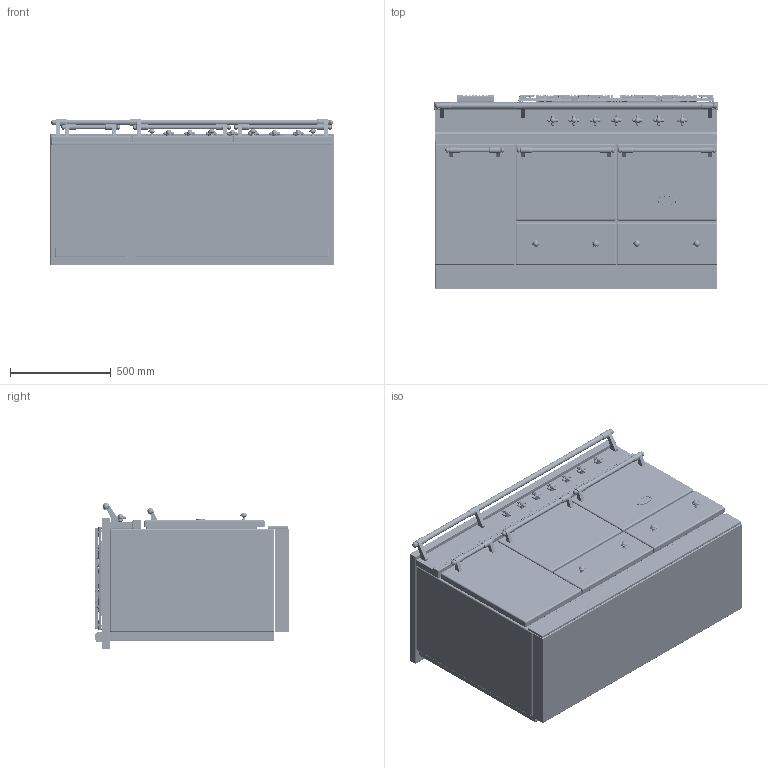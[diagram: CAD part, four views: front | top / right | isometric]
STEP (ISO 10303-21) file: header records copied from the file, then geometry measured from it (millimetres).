
FILE_DESCRIPTION((''),'2;1');
FILE_NAME('LG1452G_ASM','2021-12-01T14:02:36',('r.avril'),(''),'CREO PARAMETRIC BY PTC INC, 2017260','CREO PARAMETRIC BY PTC INC, 2017260','');
FILE_SCHEMA(('AP203_CONFIGURATION_CONTROLLED_3D_DESIGN_OF_MECHANICAL_PARTS_AND_ASSEMBLIES_MIM_LF { 1 0 10303 403 2 1 2 }'));
Products named in the file (28): BASE_EXPORT_CLUNY_1400G; 65650003; 65650004; 6531940; 6531941; 6538399; 1931942; 65080022_AF0; 6531942_ASM; 6531943; 65049009; 65650001; 65650007; BASE_EXPORT_CLUNY_1400G_ASM; TABLE_1405G_CLASSIQUE; 3KW; 5KW; 1_5KW; 4KW; 6537025; 65149005; 90000488_ASM; 6537023; 90000565_ASM; CHEMINEE_2020_LG182_EXPORT_STEP; CHEMINEE_2020_LG371_EXPORT_STEP; TABLE_1405G_CLASSIQUE_ASM; LG1452G_ASM
Assembly tree (51 placements, depth 4):
  LG1452G_ASM
    BASE_EXPORT_CLUNY_1400G_ASM
      BASE_EXPORT_CLUNY_1400G
      65650003
      65650004
      6531940  x3
      6531941  x3
      6531942_ASM  x7
        6538399
        1931942
        65080022_AF0
      6531943  x4
      65049009
      65650001
      65650007
    TABLE_1405G_CLASSIQUE_ASM
      TABLE_1405G_CLASSIQUE
      3KW  x2
      5KW
      1_5KW
      4KW
      90000488_ASM  x2
        6537025
        65149005
      90000565_ASM  x2
        6537023
        65149005
      CHEMINEE_2020_LG182_EXPORT_STEP
      CHEMINEE_2020_LG371_EXPORT_STEP  x2
Bounding box: 1405 x 965 x 724 mm (x, y, z)
Volume: 509637326.6 mm3; surface area: 13003615 mm2
Topology: 74 solids, 87 shells, 8330 faces, 21519 edges, 13265 vertices
Faces by surface type: plane 3302, cylinder 2591, bspline 1193, cone 386, torus 342, sphere 262, extrusion 238, revolution 16
Entity records: 168080 total; most frequent: CARTESIAN_POINT 51412, ORIENTED_EDGE 20020, DIRECTION 18363, EDGE_CURVE 10022, AXIS2_PLACEMENT_3D 6380, VERTEX_POINT 6204, VECTOR 5516, LINE 5466
